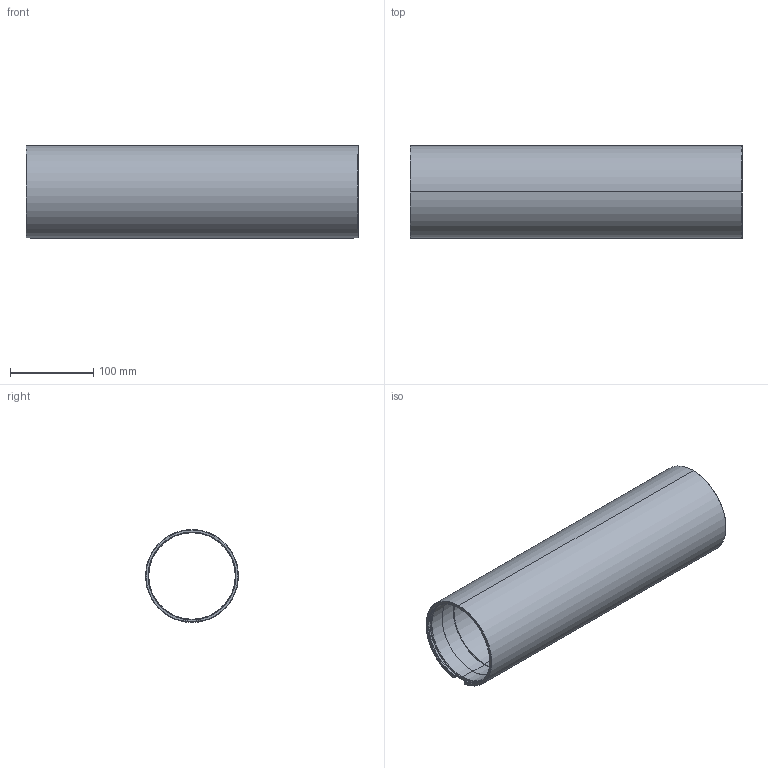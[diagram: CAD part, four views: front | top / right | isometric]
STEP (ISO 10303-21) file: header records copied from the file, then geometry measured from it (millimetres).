
FILE_DESCRIPTION (( 'STEP AP214' ), '1' );
FILE_NAME ('BR-100195-400_RevB.STEP', '2024-09-16T23:20:08', ( '' ), ( '' ), 'SwSTEP 2.0', 'SolidWorks 2024', '' );
FILE_SCHEMA (( 'AUTOMOTIVE_DESIGN' ));
Length unit declared in the file: millimetre
Products named in the file (1): BR-100195-400_RevB
Bounding box: 400 x 111.63 x 112 mm (x, y, z)
Volume: 514950.2 mm3; surface area: 275251 mm2
Topology: 1 solids, 1 shells, 94 faces, 240 edges, 150 vertices
Faces by surface type: cylinder 24, bspline 24, cone 18, plane 16, torus 12
Entity records: 5964 total; most frequent: CARTESIAN_POINT 3914, ORIENTED_EDGE 480, DIRECTION 342, EDGE_CURVE 240, VERTEX_POINT 150, AXIS2_PLACEMENT_3D 147, B_SPLINE_CURVE_WITH_KNOTS 112, EDGE_LOOP 98
